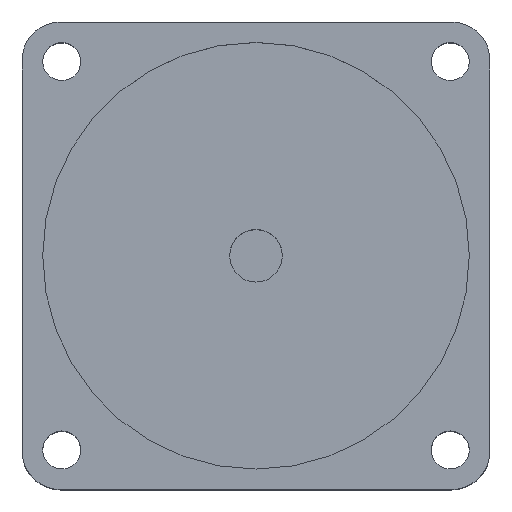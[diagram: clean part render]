
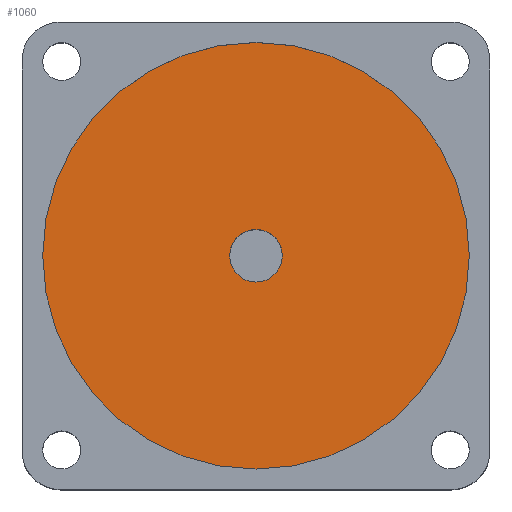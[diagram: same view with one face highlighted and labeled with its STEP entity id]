
A CAD part, top view. The second image highlights one B-rep face of the part: STEP entity #1060.
In plain terms, the highlighted planar face has unit normal (0, 0, 1).
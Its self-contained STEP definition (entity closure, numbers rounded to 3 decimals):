
#92 = AXIS2_PLACEMENT_3D ( 'NONE', #953, #1543, #114 ) ;
#105 = DIRECTION ( 'NONE',  ( 1., 0., 0. ) ) ;
#114 = DIRECTION ( 'NONE',  ( 1., 0., 0. ) ) ;
#143 = EDGE_LOOP ( 'NONE', ( #735, #178 ) ) ;
#178 = ORIENTED_EDGE ( 'NONE', *, *, #1275, .T. ) ;
#181 = DIRECTION ( 'NONE',  ( 1., 0., 0. ) ) ;
#206 = AXIS2_PLACEMENT_3D ( 'NONE', #404, #1373, #105 ) ;
#304 = DIRECTION ( 'NONE',  ( 0., 0., 1. ) ) ;
#366 = CARTESIAN_POINT ( 'NONE',  ( 36.5, 0., -2. ) ) ;
#376 = CARTESIAN_POINT ( 'NONE',  ( 4.5, 0., -2. ) ) ;
#384 = CIRCLE ( 'NONE', #92, 4.5 ) ;
#404 = CARTESIAN_POINT ( 'NONE',  ( 0., 0., -2. ) ) ;
#406 = EDGE_CURVE ( 'NONE', #509, #1372, #1189, .T. ) ;
#430 = EDGE_CURVE ( 'NONE', #1372, #509, #1036, .T. ) ;
#509 = VERTEX_POINT ( 'NONE', #986 ) ;
#533 = FACE_BOUND ( 'NONE', #143, .T. ) ;
#580 = ORIENTED_EDGE ( 'NONE', *, *, #430, .T. ) ;
#628 = CARTESIAN_POINT ( 'NONE',  ( -4.5, 0., -2. ) ) ;
#668 = AXIS2_PLACEMENT_3D ( 'NONE', #677, #304, #669 ) ;
#669 = DIRECTION ( 'NONE',  ( 1., 0., 0. ) ) ;
#677 = CARTESIAN_POINT ( 'NONE',  ( 0., 0., -2. ) ) ;
#689 = PLANE ( 'NONE',  #206 ) ;
#735 = ORIENTED_EDGE ( 'NONE', *, *, #815, .T. ) ;
#812 = VERTEX_POINT ( 'NONE', #628 ) ;
#815 = EDGE_CURVE ( 'NONE', #1188, #812, #1330, .T. ) ;
#921 = FACE_OUTER_BOUND ( 'NONE', #1064, .T. ) ;
#953 = CARTESIAN_POINT ( 'NONE',  ( 0., 0., -2. ) ) ;
#986 = CARTESIAN_POINT ( 'NONE',  ( -36.5, 0., -2. ) ) ;
#1030 = DIRECTION ( 'NONE',  ( 0., 0., 1. ) ) ;
#1036 = CIRCLE ( 'NONE', #1147, 36.5 ) ;
#1060 = ADVANCED_FACE ( 'NONE', ( #921, #533 ), #689, .T. ) ;
#1064 = EDGE_LOOP ( 'NONE', ( #580, #1475 ) ) ;
#1133 = DIRECTION ( 'NONE',  ( 0., 0., -1. ) ) ;
#1147 = AXIS2_PLACEMENT_3D ( 'NONE', #1260, #1030, #1508 ) ;
#1159 = AXIS2_PLACEMENT_3D ( 'NONE', #1254, #1133, #181 ) ;
#1188 = VERTEX_POINT ( 'NONE', #376 ) ;
#1189 = CIRCLE ( 'NONE', #668, 36.5 ) ;
#1254 = CARTESIAN_POINT ( 'NONE',  ( 0., 0., -2. ) ) ;
#1260 = CARTESIAN_POINT ( 'NONE',  ( 0., 0., -2. ) ) ;
#1275 = EDGE_CURVE ( 'NONE', #812, #1188, #384, .T. ) ;
#1330 = CIRCLE ( 'NONE', #1159, 4.5 ) ;
#1372 = VERTEX_POINT ( 'NONE', #366 ) ;
#1373 = DIRECTION ( 'NONE',  ( 0., 0., 1. ) ) ;
#1475 = ORIENTED_EDGE ( 'NONE', *, *, #406, .T. ) ;
#1508 = DIRECTION ( 'NONE',  ( 1., 0., 0. ) ) ;
#1543 = DIRECTION ( 'NONE',  ( 0., 0., -1. ) ) ;
